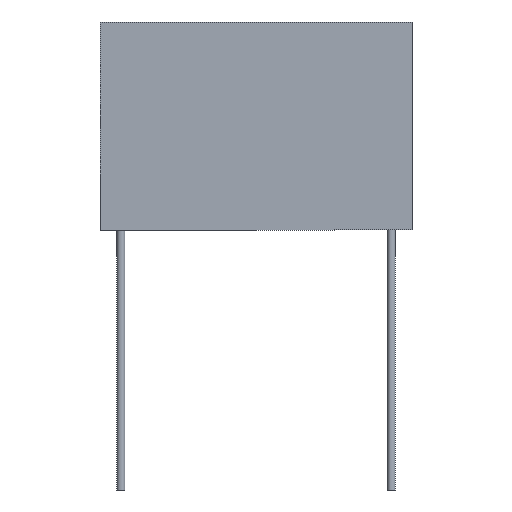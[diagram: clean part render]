
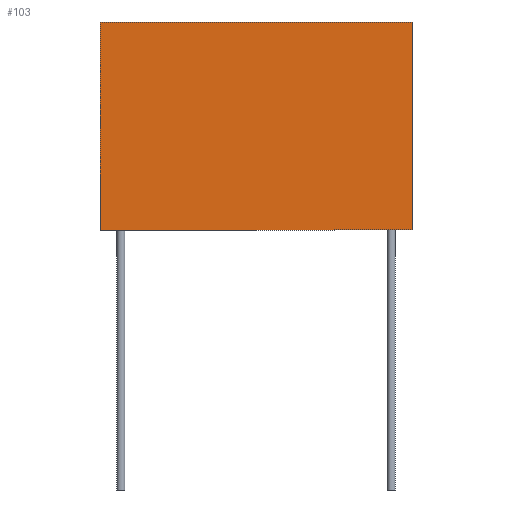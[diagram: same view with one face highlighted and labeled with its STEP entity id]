
A CAD part, front view. The second image highlights one B-rep face of the part: STEP entity #103.
In plain terms, the highlighted planar face has unit normal (0, -1, 0).
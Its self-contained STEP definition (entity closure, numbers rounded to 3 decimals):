
#103=ADVANCED_FACE('',(#187),#189,.F.);
#187=FACE_BOUND('',#188,.T.);
#188=EDGE_LOOP('',(#248,#249,#250,#251));
#189=PLANE('',#190);
#190=AXIS2_PLACEMENT_3D('',#191,#192,#193);
#191=CARTESIAN_POINT('',(0.,-1.4,0.));
#192=DIRECTION('',(0.,1.,0.));
#193=DIRECTION('',(-1.,0.,0.));
#248=ORIENTED_EDGE('',*,*,#279,.F.);
#249=ORIENTED_EDGE('',*,*,#266,.F.);
#250=ORIENTED_EDGE('',*,*,#277,.F.);
#251=ORIENTED_EDGE('',*,*,#280,.F.);
#266=EDGE_CURVE('',#288,#290,#291,.T.);
#277=EDGE_CURVE('',#309,#288,#310,.T.);
#279=EDGE_CURVE('',#290,#312,#313,.T.);
#280=EDGE_CURVE('',#312,#309,#314,.T.);
#288=VERTEX_POINT('',#330);
#290=VERTEX_POINT('',#334);
#291=LINE('',#335,#336);
#309=VERTEX_POINT('',#379);
#310=LINE('',#380,#381);
#312=VERTEX_POINT('',#386);
#313=LINE('',#387,#388);
#314=LINE('',#390,#391);
#330=CARTESIAN_POINT('',(15.,-1.4,0.));
#334=CARTESIAN_POINT('',(-15.,-1.4,0.));
#335=CARTESIAN_POINT('',(15.,-1.4,0.));
#336=VECTOR('',#337,1.);
#337=DIRECTION('',(-1.,0.,0.));
#379=CARTESIAN_POINT('',(15.,-1.4,20.));
#380=CARTESIAN_POINT('',(15.,-1.4,20.));
#381=VECTOR('',#382,1.);
#382=DIRECTION('',(0.,0.,-1.));
#386=CARTESIAN_POINT('',(-15.,-1.4,20.));
#387=CARTESIAN_POINT('',(-15.,-1.4,0.));
#388=VECTOR('',#389,1.);
#389=DIRECTION('',(0.,0.,1.));
#390=CARTESIAN_POINT('',(-15.,-1.4,20.));
#391=VECTOR('',#392,1.);
#392=DIRECTION('',(1.,0.,0.));
